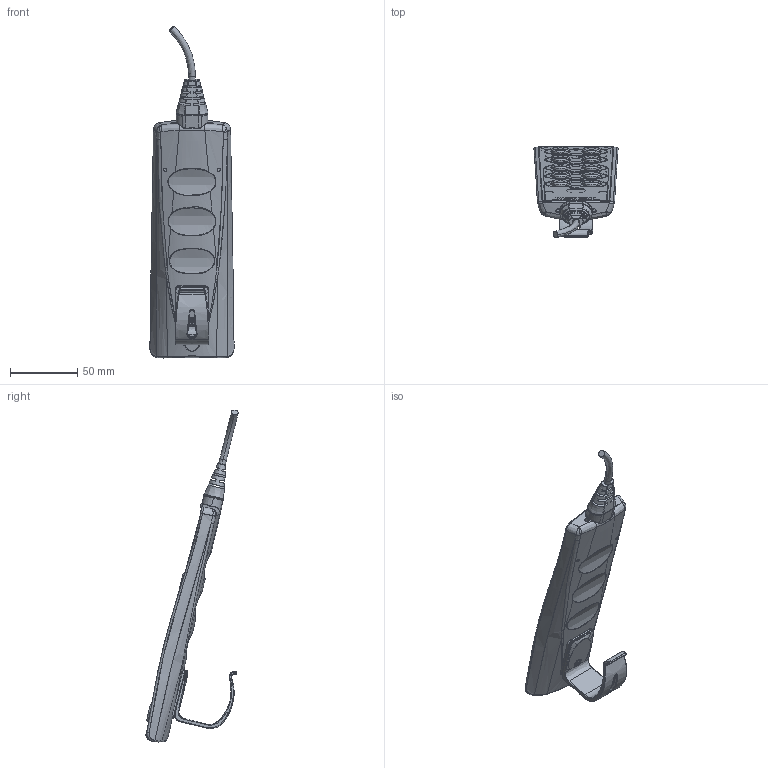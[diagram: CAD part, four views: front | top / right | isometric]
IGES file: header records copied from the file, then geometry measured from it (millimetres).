
Start section: SolidWorks IGES file using analytic representation for surfaces
Global section: file name: C:\Users\USER\Desktop\2021.IGS; native system: SolidWorks 2020; preprocessor: SolidWorks 2020; author: USER; date: 210813.132256; units: millimetre
Bounding box: 62.47 x 68.49 x 246.46 mm (x, y, z)
Surface area: 43469.5 mm2 (no closed solid volume)
Topology: 0 solids, 0 shells, 688 faces, 9991 edges, 9983 vertices
Faces by surface type: bspline 493, revolution 195
